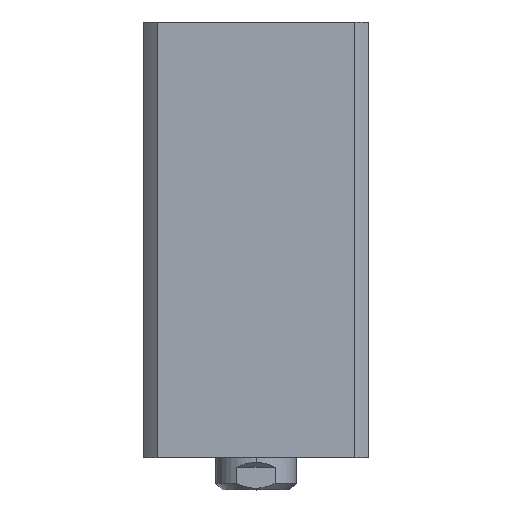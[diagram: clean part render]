
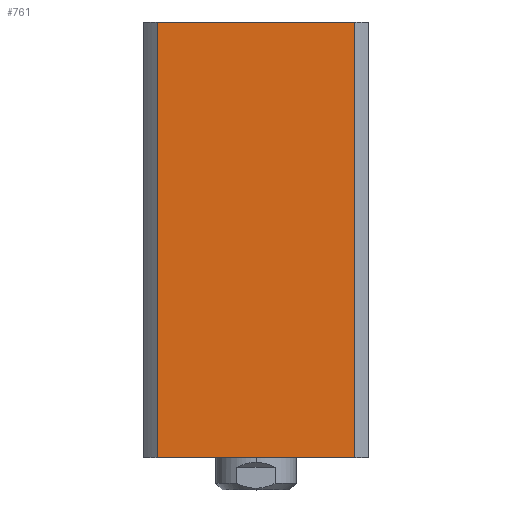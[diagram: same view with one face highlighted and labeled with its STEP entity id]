
A CAD part, top view. The second image highlights one B-rep face of the part: STEP entity #761.
In plain terms, the highlighted planar face has unit normal (0, 0, 1) as drawn and (1, 0, 0) by its records, which use the part's own axes.
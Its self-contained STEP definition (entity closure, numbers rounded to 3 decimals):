
#92 = LINE ( 'NONE', #1765, #8140 ) ;
#320 = DIRECTION ( 'NONE',  ( 0., 1., 0. ) ) ;
#524 = AXIS2_PLACEMENT_3D ( 'NONE', #3936, #6287, #1603 ) ;
#761 = ADVANCED_FACE ( 'NONE', ( #7955 ), #1565, .F. ) ;
#1565 = PLANE ( 'NONE',  #524 ) ;
#1603 = DIRECTION ( 'NONE',  ( 0., 0., 1. ) ) ;
#1765 = CARTESIAN_POINT ( 'NONE',  ( 35., 30.615, 300. ) ) ;
#2035 = CARTESIAN_POINT ( 'NONE',  ( 35., -30.615, 0. ) ) ;
#2081 = CARTESIAN_POINT ( 'NONE',  ( 35., 30.615, 0. ) ) ;
#2324 = VERTEX_POINT ( 'NONE', #2035 ) ;
#2837 = CARTESIAN_POINT ( 'NONE',  ( 35., 30.615, 135. ) ) ;
#3201 = ORIENTED_EDGE ( 'NONE', *, *, #6726, .F. ) ;
#3854 = DIRECTION ( 'NONE',  ( 0., 0., 1. ) ) ;
#3936 = CARTESIAN_POINT ( 'NONE',  ( 35., 35., 135. ) ) ;
#4488 = EDGE_CURVE ( 'NONE', #7864, #8329, #92, .T. ) ;
#4568 = LINE ( 'NONE', #6955, #5939 ) ;
#4889 = DIRECTION ( 'NONE',  ( 0., 0., -1. ) ) ;
#5772 = CARTESIAN_POINT ( 'NONE',  ( 35., 35., 0. ) ) ;
#5889 = EDGE_CURVE ( 'NONE', #9801, #7864, #8375, .T. ) ;
#5939 = VECTOR ( 'NONE', #3854, 1000. ) ;
#6227 = ORIENTED_EDGE ( 'NONE', *, *, #5889, .F. ) ;
#6287 = DIRECTION ( 'NONE',  ( -1., 0., 0. ) ) ;
#6297 = VECTOR ( 'NONE', #6403, 1000. ) ;
#6403 = DIRECTION ( 'NONE',  ( 0., 1., 0. ) ) ;
#6533 = VECTOR ( 'NONE', #320, 1000. ) ;
#6726 = EDGE_CURVE ( 'NONE', #2324, #9801, #4568, .T. ) ;
#6779 = LINE ( 'NONE', #5772, #6533 ) ;
#6955 = CARTESIAN_POINT ( 'NONE',  ( 35., -30.615, 300. ) ) ;
#7054 = EDGE_CURVE ( 'NONE', #2324, #8329, #6779, .T. ) ;
#7730 = ORIENTED_EDGE ( 'NONE', *, *, #4488, .F. ) ;
#7864 = VERTEX_POINT ( 'NONE', #2837 ) ;
#7955 = FACE_OUTER_BOUND ( 'NONE', #9937, .T. ) ;
#8140 = VECTOR ( 'NONE', #4889, 1000. ) ;
#8329 = VERTEX_POINT ( 'NONE', #2081 ) ;
#8337 = CARTESIAN_POINT ( 'NONE',  ( 35., -30.615, 135. ) ) ;
#8375 = LINE ( 'NONE', #9493, #6297 ) ;
#9493 = CARTESIAN_POINT ( 'NONE',  ( 35., 35., 135. ) ) ;
#9801 = VERTEX_POINT ( 'NONE', #8337 ) ;
#9823 = ORIENTED_EDGE ( 'NONE', *, *, #7054, .T. ) ;
#9937 = EDGE_LOOP ( 'NONE', ( #7730, #6227, #3201, #9823 ) ) ;
